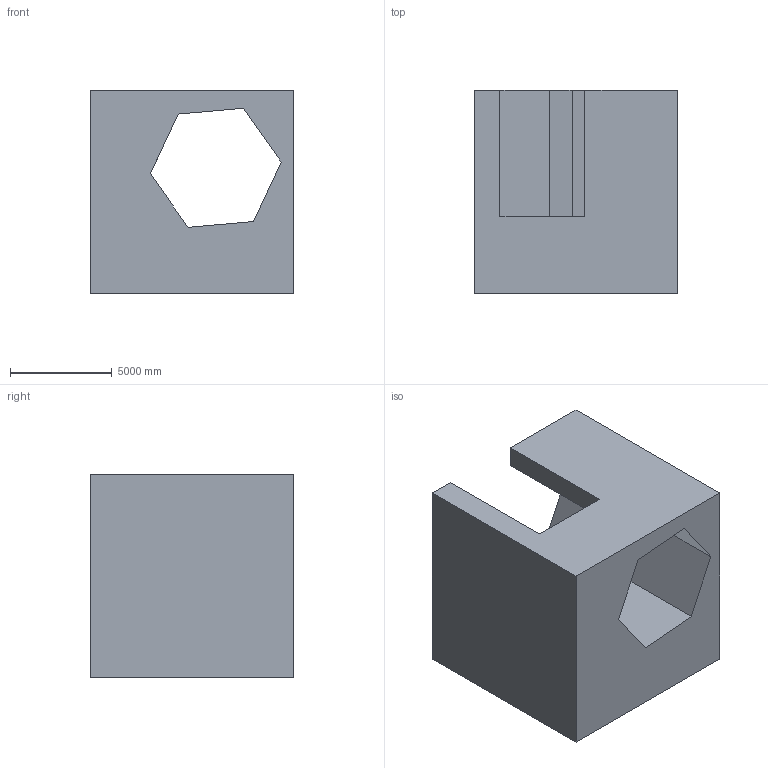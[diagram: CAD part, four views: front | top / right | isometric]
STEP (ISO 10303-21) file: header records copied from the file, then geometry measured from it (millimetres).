
FILE_DESCRIPTION (( 'STEP AP203' ), '1' );
FILE_NAME ('219.STEP', '2022-09-07T12:20:03', ( 'user' ), ( '' ), 'SwSTEP 2.0', 'SolidWorks 2021', '' );
FILE_SCHEMA (( 'CONFIG_CONTROL_DESIGN' ));
Length unit declared in the file: centimetre
Products named in the file (1): 219
Bounding box: 10000 x 10000 x 10000 mm (x, y, z)
Volume: 676847943935.5 mm3; surface area: 734806323.7 mm2
Topology: 1 solids, 1 shells, 16 faces, 45 edges, 30 vertices
Faces by surface type: plane 16
Entity records: 590 total; most frequent: CARTESIAN_POINT 92, ORIENTED_EDGE 90, DIRECTION 79, LINE 45, VECTOR 45, EDGE_CURVE 45, VERTEX_POINT 30, AXIS2_PLACEMENT_3D 17
